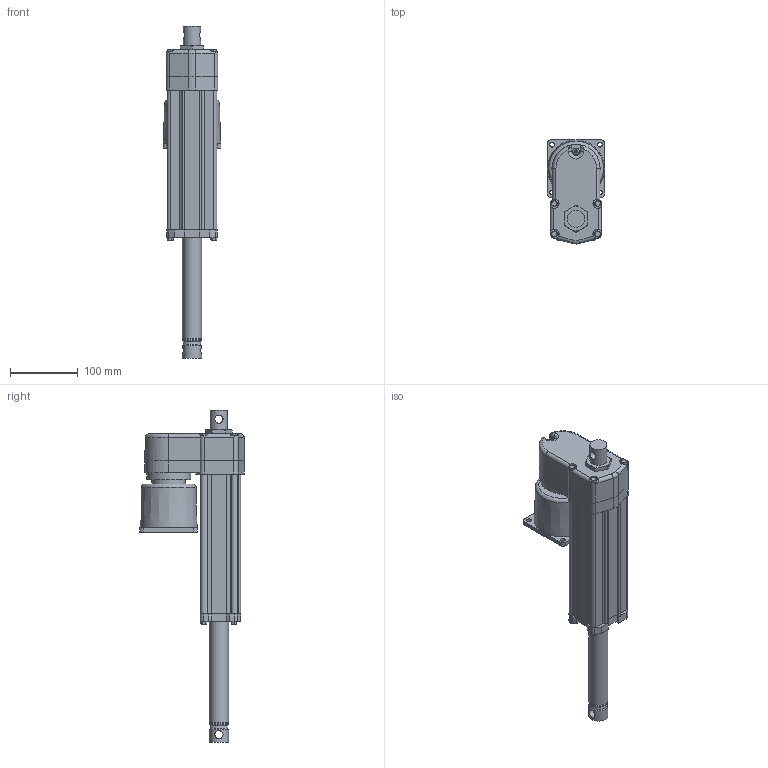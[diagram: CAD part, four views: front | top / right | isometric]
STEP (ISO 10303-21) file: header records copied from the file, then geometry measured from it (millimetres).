
FILE_DESCRIPTION (( 'STEP AP214' ), '1' );
FILE_NAME ('FA14-05A65M15M0_tollo.step', '2020-04-15T18:19:57', ( '' ), ( '' ), 'SwSTEP 2.0', 'SolidWorks 2010', '' );
FILE_SCHEMA (( 'AUTOMOTIVE_DESIGN' ));
Length unit declared in the file: millimetre
Products named in the file (9): Electrak-FA14-House-Acme-Tollo; Electrak-FA14-Rear-Tollo; Electrak-FA14-Motor-Tollo; Electrak-FA14-Tube-Acme-Tollo; Electrak-FA14-Plate-Tollo; Screw-MRT-TT-M5; Screw-M6S-M5; Electrak-FA14-Rod-Acme-Tollo; FA14-05A65M15M0_tollo
Assembly tree (15 placements, depth 3):
  FA14-05A65M15M0_tollo
    Electrak-FA14-Rod-Acme-Tollo
    Electrak-FA14-House-Acme-Tollo
      Electrak-FA14-Plate-Tollo
      Electrak-FA14-Rear-Tollo
      Electrak-FA14-Tube-Acme-Tollo
      Screw-M6S-M5  x8
      Electrak-FA14-Motor-Tollo
      Screw-MRT-TT-M5
Bounding box: 85 x 154.18 x 491.1 mm (x, y, z)
Volume: 1145619.3 mm3; surface area: 288141.1 mm2
Topology: 14 solids, 14 shells, 509 faces, 1279 edges, 826 vertices
Faces by surface type: plane 234, cylinder 198, cone 57, torus 18, bspline 2
Full cylindrical faces by diameter (mm): 4.126 x8, 4.8 x6, 5 x8, 5.6 x4, 6 x1, 7 x4, 7.878 x8, 9.5 x1, 11.741 x1, 12.2 x2, 25.4 x1, 28.5 x4, 34.5 x1, 47.625 x1, 50 x1, 65 x1, 80 x1
Entity records: 11671 total; most frequent: CARTESIAN_POINT 2704, DIRECTION 1857, ORIENTED_EDGE 1700, EDGE_CURVE 850, AXIS2_PLACEMENT_3D 686, VERTEX_POINT 577, LINE 485, VECTOR 485
